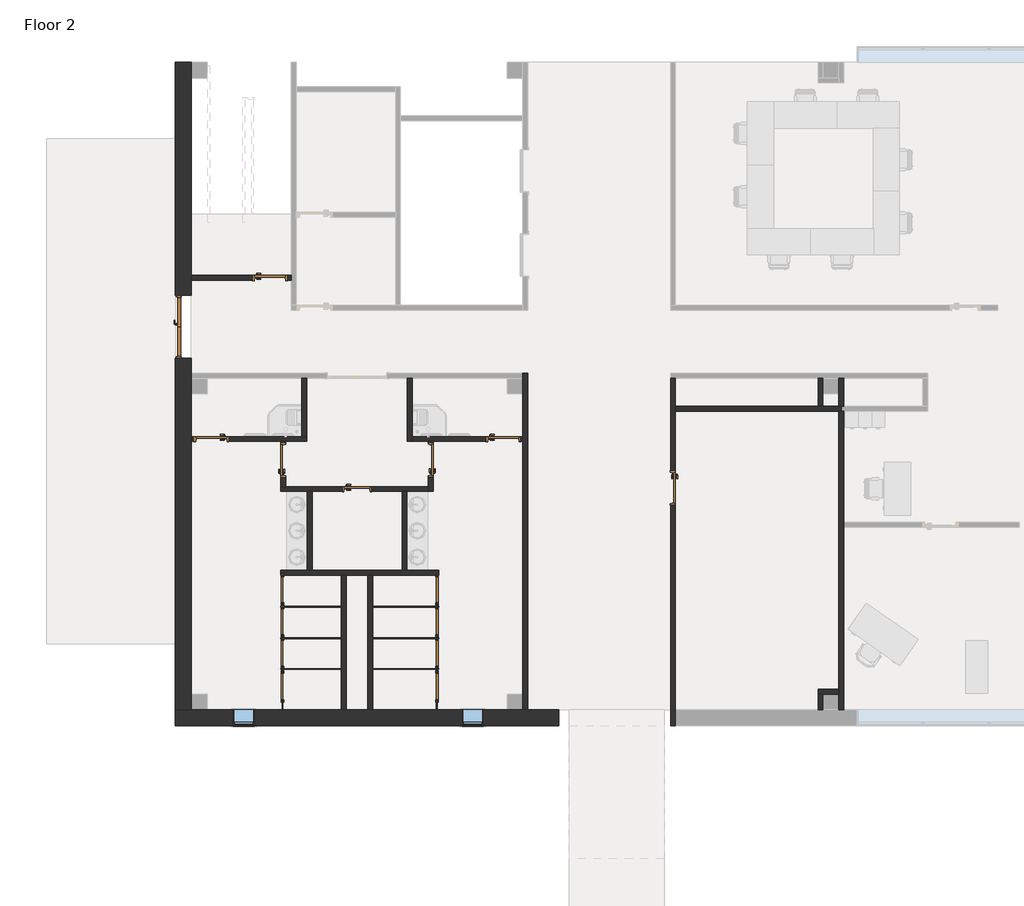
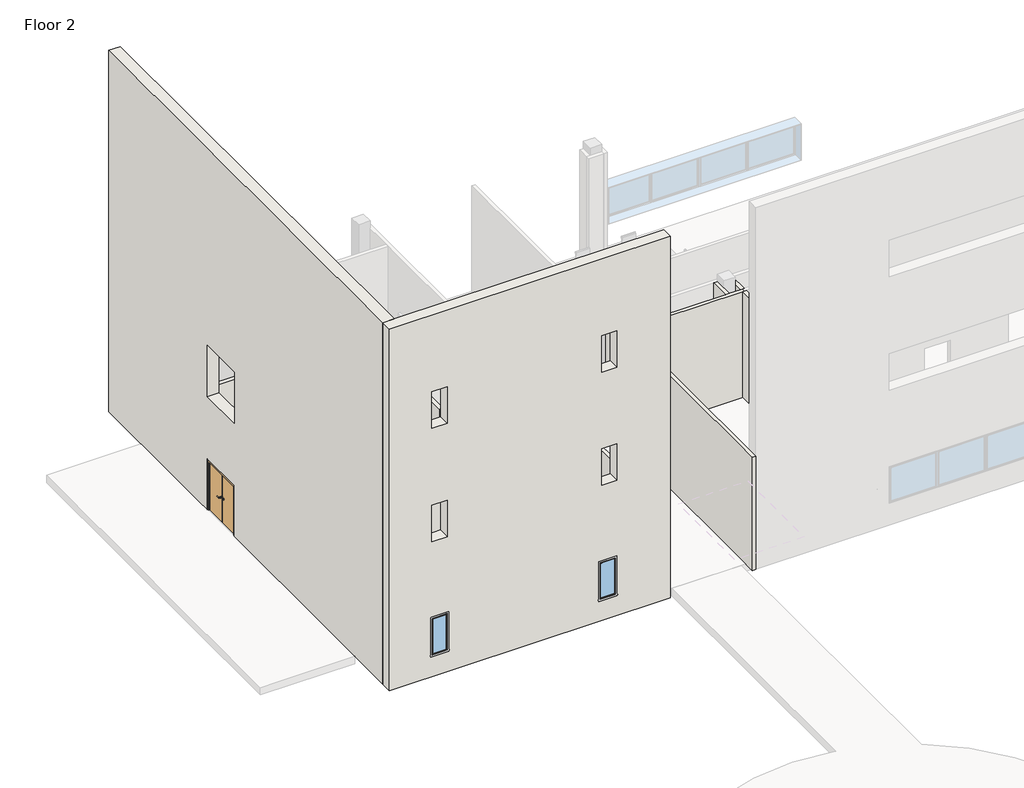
# One storey, part 1 of 7: 37 walls, 16 doors, 2 windows.
"""IFC4 building model written with IfcOpenShell, lengths in millimetres."""

from ifc_helpers import new_model, si_unit, frame, origin, place, context, project, spatial, polyline, outline, extrude, faceted_brep, transform, mapped, element, save
from components import door_efda3cbc, door_b22482a1, door_36f17018, door_a46f4f49, door_b03708da, door_cef5613e, window_69ce9bab

model = new_model("IFC4")

# Units and contexts
model_context = context("Model", 3, world=origin())
ifc_project = project(units=[si_unit("LENGTHUNIT", "METRE", prefix="MILLI")], contexts=[model_context])

# Site, building, storey
site = spatial("IfcSite", under=ifc_project)
building = spatial("IfcBuilding", under=site)
storey = spatial("IfcBuildingStorey", under=building, Name="Floor 2", Elevation=5486.4)

# Doors
placement = place(None, origin())
door_shape = door_efda3cbc(model_context)
element("IfcDoor", 1, ObjectType="Door-Passage-Double-Flush : 68\" x 80\"", at=placement, inside=storey, context=model_context, shape_type="MappedRepresentation", body=[
    mapped(door_shape, transform((-3186.4602165, 49707.011889, 5486.4), x_axis=(0.0, 1.0, 0.0), y_axis=(-1.0, 0.0, 0.0), z_axis=(0.0, 0.0, 1.0))),
])
door_2_shape = door_b22482a1(model_context)
element("IfcDoor", 2, ObjectType="Door-Passage-Single-Flush : 30\" x 84\"", at=placement, inside=storey, context=model_context, shape_type="MappedRepresentation", body=[
    mapped(door_2_shape, transform((1836.7692024, 45008.011889, 5486.4), x_axis=(1.0, 0.0, 0.0), y_axis=(0.0, 1.0, 0.0), z_axis=(0.0, 0.0, 1.0))),
])
door_3_shape = door_36f17018(model_context)
element("IfcDoor", 3, ObjectType="Door-Passage-Single-Flush : 36\" x 84\"", at=placement, inside=storey, context=model_context, shape_type="MappedRepresentation", body=[
    mapped(door_3_shape, transform((3964.0192024, 45858.911889, 5486.4), x_axis=(0.0, 1.0, 0.0), y_axis=(-1.0, 0.0, 0.0), z_axis=(0.0, 0.0, 1.0))),
])
element("IfcDoor", 4, ObjectType="Door-Passage-Single-Flush : 36\" x 84\"", at=placement, inside=storey, context=model_context, shape_type="MappedRepresentation", body=[
    mapped(door_3_shape, transform((-2380.0102165, 46455.811889, 5486.4), x_axis=(-1.0, 0.0, 0.0), y_axis=(0.0, -1.0, 0.0), z_axis=(0.0, 0.0, 1.0))),
])
door_4_shape = door_a46f4f49(model_context)
element("IfcDoor", 5, ObjectType="Door-Passage-Single-Flush : 36\" x 84\"", at=placement, inside=storey, context=model_context, shape_type="MappedRepresentation", body=[
    mapped(door_4_shape, transform((-684.1807976, 51116.711889, 5486.4), x_axis=(1.0, 0.0, 0.0), y_axis=(0.0, 1.0, 0.0), z_axis=(0.0, 0.0, 1.0))),
])
element("IfcDoor", 6, ObjectType="Door-Passage-Single-Flush : 36\" x 84\"", at=placement, inside=storey, context=model_context, shape_type="MappedRepresentation", body=[
    mapped(door_4_shape, transform((-290.4807976, 45852.561889, 5486.4), x_axis=(0.0, 1.0, 0.0), y_axis=(-1.0, 0.0, 0.0), z_axis=(0.0, 0.0, 1.0))),
])
element("IfcDoor", 7, ObjectType="Door-Passage-Single-Flush : 36\" x 84\"", at=placement, inside=storey, context=model_context, shape_type="MappedRepresentation", body=[
    mapped(door_4_shape, transform((6072.2192024, 46455.811889, 5486.4), x_axis=(1.0, 0.0, 0.0), y_axis=(0.0, 1.0, 0.0), z_axis=(0.0, 0.0, 1.0))),
])
element("IfcDoor", 8, ObjectType="Door-Passage-Single-Flush : 36\" x 84\"", at=placement, inside=storey, context=model_context, shape_type="MappedRepresentation", body=[
    mapped(door_4_shape, transform((10974.4192024, 45046.111889, 5486.4), x_axis=(0.0, -1.0, 0.0), y_axis=(1.0, 0.0, 0.0), z_axis=(0.0, 0.0, 1.0))),
])
door_5_shape = door_b03708da(model_context)
element("IfcDoor", 9, ObjectType="Single-Flush : 30\" x 80\"", at=placement, inside=storey, context=model_context, shape_type="MappedRepresentation", body=[
    mapped(door_5_shape, transform((-322.2307976, 42096.536889, 5486.4), x_axis=(0.0, -1.0, 0.0), y_axis=(1.0, 0.0, 0.0), z_axis=(0.0, 0.0, 1.0))),
])
element("IfcDoor", 10, ObjectType="Single-Flush : 30\" x 80\"", at=placement, inside=storey, context=model_context, shape_type="MappedRepresentation", body=[
    mapped(door_5_shape, transform((-322.2307976, 41169.436889, 5486.4), x_axis=(0.0, -1.0, 0.0), y_axis=(1.0, 0.0, 0.0), z_axis=(0.0, 0.0, 1.0))),
])
element("IfcDoor", 11, ObjectType="Single-Flush : 30\" x 80\"", at=placement, inside=storey, context=model_context, shape_type="MappedRepresentation", body=[
    mapped(door_5_shape, transform((-322.2307976, 40255.036889, 5486.4), x_axis=(0.0, -1.0, 0.0), y_axis=(1.0, 0.0, 0.0), z_axis=(0.0, 0.0, 1.0))),
])
element("IfcDoor", 12, ObjectType="Single-Flush : 30\" x 80\"", at=placement, inside=storey, context=model_context, shape_type="MappedRepresentation", body=[
    mapped(door_5_shape, transform((-322.2307976, 39296.186889, 5486.4), x_axis=(0.0, -1.0, 0.0), y_axis=(1.0, 0.0, 0.0), z_axis=(0.0, 0.0, 1.0))),
])
door_6_shape = door_cef5613e(model_context)
element("IfcDoor", 13, ObjectType="Single-Flush : 30\" x 80\"", at=placement, inside=storey, context=model_context, shape_type="MappedRepresentation", body=[
    mapped(door_6_shape, transform((4148.1692024, 42096.536889, 5486.4), x_axis=(0.0, -1.0, 0.0), y_axis=(1.0, 0.0, 0.0), z_axis=(0.0, 0.0, 1.0))),
])
element("IfcDoor", 14, ObjectType="Single-Flush : 30\" x 80\"", at=placement, inside=storey, context=model_context, shape_type="MappedRepresentation", body=[
    mapped(door_6_shape, transform((4148.1692024, 41169.436889, 5486.4), x_axis=(0.0, -1.0, 0.0), y_axis=(1.0, 0.0, 0.0), z_axis=(0.0, 0.0, 1.0))),
])
element("IfcDoor", 15, ObjectType="Single-Flush : 30\" x 80\"", at=placement, inside=storey, context=model_context, shape_type="MappedRepresentation", body=[
    mapped(door_6_shape, transform((4148.1692024, 40255.036889, 5486.4), x_axis=(0.0, -1.0, 0.0), y_axis=(1.0, 0.0, 0.0), z_axis=(0.0, 0.0, 1.0))),
])
element("IfcDoor", 16, ObjectType="Single-Flush : 30\" x 80\"", at=placement, inside=storey, context=model_context, shape_type="MappedRepresentation", body=[
    mapped(door_6_shape, transform((4148.1692024, 39296.186889, 5486.4), x_axis=(0.0, -1.0, 0.0), y_axis=(1.0, 0.0, 0.0), z_axis=(0.0, 0.0, 1.0))),
])

# Walls
element("IfcWall", 17, ObjectType="Interior - 5 1/2\" Partition (1-hr)", at=placement, inside=storey, context=model_context, shape_type="Brep", body=[
    faceted_brep([(6777.0692024, 38618.324389, 5486.4), (6777.0692024, 48360.811889, 5486.4), (6777.0692024, 48360.811889, 10210.8), (6777.0692024, 38618.324389, 10210.8), (6637.3692024, 38618.324389, 5486.4), (6637.3692024, 38618.324389, 10210.8), (6637.3692024, 48360.811889, 10210.8), (6637.3692024, 48360.811889, 9906.0), (6637.3692024, 48360.811889, 5486.4), (6637.3692024, 48221.111889, 5486.4), (6637.3692024, 46532.011889, 5486.4), (6637.3692024, 46392.311889, 5486.4)], [[[0, 1, 2, 3]], [[4, 5, 6, 7, 8, 9, 10, 11]], [[1, 0, 4, 11, 10, 9, 8]], [[3, 2, 6, 5]], [[2, 1, 8, 7, 6]], [[0, 3, 5, 4]]]),
])
element("IfcWall", 18, ObjectType="Interior - 5 1/2\" Partition (1-hr)", at=placement, inside=storey, context=model_context, shape_type="SweptSolid", body=[
    extrude(outline(polyline([(7721.6, -176.1807976), (5486.4, -176.1807976), (5486.4, -61.8807976), (10210.8, -61.8807976), (10210.8, -2965.7977165), (5486.4, -2965.7977165), (5486.4, -1192.1807976), (7721.6, -1192.1807976), (7721.6, -176.1807976)])), frame((0.0, 51053.211889, 0.0), z_axis=(0.0, 1.0, 0.0), x_axis=(0.0, 0.0, 1.0)), (0.0, 0.0, 1.0), 139.7),
])
element("IfcWall", 19, ObjectType="Interior - 5 1/2\" Partition (1-hr)", at=placement, inside=storey, context=model_context, shape_type="Brep", body=[
    faceted_brep([(3290.9192024, 48221.111889, 5486.4), (3290.9192024, 46392.311889, 5486.4), (3290.9192024, 46392.311889, 9906.0), (3290.9192024, 48221.111889, 9906.0), (3430.6192024, 48221.111889, 5486.4), (3430.6192024, 48221.111889, 9906.0), (3430.6192024, 46532.011889, 9906.0), (3430.6192024, 46392.311889, 9906.0), (3430.6192024, 46392.311889, 5486.4), (3430.6192024, 46532.011889, 5486.4)], [[[0, 1, 2, 3]], [[4, 5, 6, 7, 8, 9]], [[1, 0, 4, 9, 8]], [[2, 1, 8, 7]], [[0, 3, 5, 4]], [[3, 2, 7, 6, 5]]]),
])
element("IfcWall", 20, ObjectType="Interior - 5 1/2\" Partition (1-hr)", at=placement, inside=storey, context=model_context, shape_type="Brep", body=[
    faceted_brep([(6580.2192024, 46392.311889, 7721.6), (6580.2192024, 46392.311889, 5486.4), (6637.3692024, 46392.311889, 5486.4), (6637.3692024, 46392.311889, 9906.0), (4040.2192024, 46392.311889, 9906.0), (3900.5192024, 46392.311889, 9906.0), (3430.6192024, 46392.311889, 9906.0), (3430.6192024, 46392.311889, 5486.4), (3900.5192024, 46392.311889, 5486.4), (4040.2192024, 46392.311889, 5486.4), (5564.2192024, 46392.311889, 5486.4), (5564.2192024, 46392.311889, 7721.6), (6637.3692024, 46532.011889, 5486.4), (6580.2192024, 46532.011889, 5486.4), (6580.2192024, 46532.011889, 7721.6), (5564.2192024, 46532.011889, 7721.6), (5564.2192024, 46532.011889, 5486.4), (3430.6192024, 46532.011889, 5486.4), (3430.6192024, 46532.011889, 9906.0), (6637.3692024, 46532.011889, 9906.0)], [[[0, 1, 2, 3, 4, 5, 6, 7, 8, 9, 10, 11]], [[12, 13, 14, 15, 16, 17, 18, 19]], [[2, 1, 13, 12]], [[10, 9, 8, 7, 17, 16]], [[7, 6, 18, 17]], [[3, 2, 12, 19]], [[6, 5, 4, 3, 19, 18]], [[14, 13, 1, 0]], [[15, 14, 0, 11]], [[16, 15, 11, 10]]]),
])
element("IfcWall", 21, ObjectType="Interior - 5 1/2\" Partition (1-hr)", at=placement, inside=storey, context=model_context, shape_type="Brep", body=[
    faceted_brep([(-2965.7977165, 46392.311889, 10210.8), (382.6192024, 46392.311889, 10210.8), (382.6192024, 46532.011889, 10210.8), (-2965.7977165, 46532.011889, 10210.8), (-2965.7977165, 46392.311889, 5486.4), (-2888.0102165, 46392.311889, 5486.4), (-2888.0102165, 46392.311889, 7721.6), (-1872.0102165, 46392.311889, 7721.6), (-1872.0102165, 46392.311889, 5486.4), (-366.6807976, 46392.311889, 5486.4), (-226.9807976, 46392.311889, 5486.4), (382.6192024, 46392.311889, 5486.4), (-2888.0102165, 46532.011889, 7721.6), (-2888.0102165, 46532.011889, 5486.4), (-2965.7977165, 46532.011889, 5486.4), (382.6192024, 46532.011889, 9906.0), (382.6192024, 46532.011889, 5486.4), (242.9192024, 46532.011889, 5486.4), (-1872.0102165, 46532.011889, 5486.4), (-1872.0102165, 46532.011889, 7721.6)], [[[0, 1, 2, 3]], [[4, 5, 6, 7, 8, 9, 10, 11, 1, 0]], [[12, 13, 14, 3, 2, 15, 16, 17, 18, 19]], [[14, 13, 5, 4]], [[18, 17, 16, 11, 10, 9, 8]], [[1, 11, 16, 15, 2]], [[4, 0, 3, 14]], [[6, 5, 13, 12]], [[7, 6, 12, 19]], [[8, 7, 19, 18]]]),
])
element("IfcWall", 22, ObjectType="Interior - 5 1/2\" Partition (1-hr)", at=placement, inside=storey, context=model_context, shape_type="SweptSolid", body=[
    extrude(outline(polyline([(382.6192024, 48221.111889), (382.6192024, 46532.011889), (242.9192024, 46532.011889), (242.9192024, 48221.111889), (382.6192024, 48221.111889)])), frame((0.0, 0.0, 5486.4), z_axis=(0.0, 0.0, 1.0), x_axis=(1.0, 0.0, 0.0)), (0.0, 0.0, 1.0), 4419.6),
])
element("IfcWall", 23, ObjectType="Interior - 5 1/2\" Partition (1-hr)", at=placement, inside=storey, context=model_context, shape_type="Brep", body=[
    faceted_brep([(3900.5192024, 46392.311889, 5486.4), (3900.5192024, 46366.911889, 5486.4), (3900.5192024, 46366.911889, 7721.6), (3900.5192024, 45350.911889, 7721.6), (3900.5192024, 45350.911889, 5486.4), (3900.5192024, 45084.211889, 5486.4), (3900.5192024, 44944.511889, 5486.4), (3900.5192024, 44944.511889, 9906.0), (3900.5192024, 45084.211889, 9906.0), (3900.5192024, 46392.311889, 9906.0), (4040.2192024, 46366.911889, 7721.6), (4040.2192024, 46366.911889, 5486.4), (4040.2192024, 46392.311889, 5486.4), (4040.2192024, 46392.311889, 9906.0), (4040.2192024, 44944.511889, 9906.0), (4040.2192024, 44944.511889, 5486.4), (4040.2192024, 45350.911889, 5486.4), (4040.2192024, 45350.911889, 7721.6)], [[[0, 1, 2, 3, 4, 5, 6, 7, 8, 9]], [[10, 11, 12, 13, 14, 15, 16, 17]], [[12, 11, 1, 0]], [[16, 15, 6, 5, 4]], [[0, 9, 13, 12]], [[7, 6, 15, 14]], [[9, 8, 7, 14, 13]], [[2, 1, 11, 10]], [[3, 2, 10, 17]], [[4, 3, 17, 16]]]),
])
element("IfcWall", 24, ObjectType="Interior - 5 1/2\" Partition (1-hr)", at=placement, inside=storey, context=model_context, shape_type="Brep", body=[
    faceted_brep([(3900.5192024, 45084.211889, 5486.4), (2268.5692024, 45084.211889, 5486.4), (2268.5692024, 45084.211889, 7721.6), (1404.9692024, 45084.211889, 7721.6), (1404.9692024, 45084.211889, 5486.4), (-226.9807976, 45084.211889, 5486.4), (-366.6807976, 45084.211889, 5486.4), (-366.6807976, 45084.211889, 9906.0), (-226.9807976, 45084.211889, 9906.0), (3900.5192024, 45084.211889, 9906.0), (2268.5692024, 44944.511889, 7721.6), (2268.5692024, 44944.511889, 5486.4), (3138.5192024, 44944.511889, 5486.4), (3278.2192024, 44944.511889, 5486.4), (3900.5192024, 44944.511889, 5486.4), (3900.5192024, 44944.511889, 9906.0), (3278.2192024, 44944.511889, 9906.0), (3138.5192024, 44944.511889, 9906.0), (535.0192024, 44944.511889, 9906.0), (395.3192024, 44944.511889, 9906.0), (-366.6807976, 44944.511889, 9906.0), (-366.6807976, 44944.511889, 5486.4), (395.3192024, 44944.511889, 5486.4), (535.0192024, 44944.511889, 5486.4), (1404.9692024, 44944.511889, 5486.4), (1404.9692024, 44944.511889, 7721.6)], [[[0, 1, 2, 3, 4, 5, 6, 7, 8, 9]], [[10, 11, 12, 13, 14, 15, 16, 17, 18, 19, 20, 21, 22, 23, 24, 25]], [[14, 13, 12, 11, 1, 0]], [[24, 23, 22, 21, 6, 5, 4]], [[0, 9, 15, 14]], [[7, 6, 21, 20]], [[9, 8, 7, 20, 19, 18, 17, 16, 15]], [[2, 1, 11, 10]], [[3, 2, 10, 25]], [[4, 3, 25, 24]]]),
])
element("IfcWall", 25, ObjectType="Interior - 5 1/2\" Partition (1-hr)", at=placement, inside=storey, context=model_context, shape_type="Brep", body=[
    faceted_brep([(2147.9192024, 42518.811889, 5486.4), (2147.9192024, 38618.324389, 5486.4), (2147.9192024, 38618.324389, 10210.8), (2147.9192024, 42518.811889, 10210.8), (2287.6192024, 42518.811889, 5486.4), (2287.6192024, 42518.811889, 10210.8), (2287.6192024, 38618.324389, 10210.8), (2287.6192024, 38618.324389, 5486.4), (2287.6192024, 39788.311889, 5486.4), (2287.6192024, 39813.711889, 5486.4), (2287.6192024, 40677.311889, 5486.4), (2287.6192024, 40702.711889, 5486.4), (2287.6192024, 41591.711889, 5486.4), (2287.6192024, 41617.111889, 5486.4)], [[[0, 1, 2, 3]], [[4, 5, 6, 7, 8, 9, 10, 11, 12, 13]], [[1, 0, 4, 13, 12, 11, 10, 9, 8, 7]], [[3, 2, 6, 5]], [[0, 3, 5, 4]], [[2, 1, 7, 6]]]),
])
element("IfcWall", 26, ObjectType="Interior - 5 1/2\" Partition (1-hr)", at=placement, inside=storey, context=model_context, shape_type="Brep", body=[
    faceted_brep([(-373.0307976, 42518.811889, 5486.4), (-334.9307976, 42518.811889, 5486.4), (-309.5307976, 42518.811889, 5486.4), (1385.9192024, 42518.811889, 5486.4), (1525.6192024, 42518.811889, 5486.4), (2147.9192024, 42518.811889, 5486.4), (2287.6192024, 42518.811889, 5486.4), (4135.4692024, 42518.811889, 5486.4), (4160.8692024, 42518.811889, 5486.4), (4198.9692024, 42518.811889, 5486.4), (4198.9692024, 42518.811889, 9906.0), (-373.0307976, 42518.811889, 9906.0), (-373.0307976, 42658.511889, 5486.4), (-373.0307976, 42658.511889, 9906.0), (395.3192024, 42658.511889, 9906.0), (535.0192024, 42658.511889, 9906.0), (3138.5192024, 42658.511889, 9906.0), (3278.2192024, 42658.511889, 9906.0), (4198.9692024, 42658.511889, 9906.0), (4198.9692024, 42658.511889, 5486.4), (3278.2192024, 42658.511889, 5486.4), (3138.5192024, 42658.511889, 5486.4), (535.0192024, 42658.511889, 5486.4), (395.3192024, 42658.511889, 5486.4)], [[[0, 1, 2, 3, 4, 5, 6, 7, 8, 9, 10, 11]], [[12, 13, 14, 15, 16, 17, 18, 19, 20, 21, 22, 23]], [[9, 8, 7, 6, 5, 4, 3, 2, 1, 0, 12, 23, 22, 21, 20, 19]], [[10, 9, 19, 18]], [[0, 11, 13, 12]], [[11, 10, 18, 17, 16, 15, 14, 13]]]),
])
element("IfcWall", 27, ObjectType="Interior - 5 1/2\" Partition (1-hr)", at=placement, inside=storey, context=model_context, shape_type="SweptSolid", body=[
    extrude(outline(polyline([(3278.2192024, 44944.511889), (3278.2192024, 42658.511889), (3138.5192024, 42658.511889), (3138.5192024, 44944.511889), (3278.2192024, 44944.511889)])), frame((0.0, 0.0, 5486.4), z_axis=(0.0, 0.0, 1.0), x_axis=(1.0, 0.0, 0.0)), (0.0, 0.0, 1.0), 4419.6),
])
element("IfcWall", 28, ObjectType="Interior - 5 1/2\" Partition (1-hr)", at=placement, inside=storey, context=model_context, shape_type="Brep", body=[
    faceted_brep([(1385.9192024, 42518.811889, 5486.4), (1385.9192024, 41617.111889, 5486.4), (1385.9192024, 41591.711889, 5486.4), (1385.9192024, 40702.711889, 5486.4), (1385.9192024, 40677.311889, 5486.4), (1385.9192024, 39813.711889, 5486.4), (1385.9192024, 39788.311889, 5486.4), (1385.9192024, 38618.324389, 5486.4), (1385.9192024, 38618.324389, 10210.8), (1385.9192024, 42518.811889, 10210.8), (1525.6192024, 42518.811889, 5486.4), (1525.6192024, 42518.811889, 10210.8), (1525.6192024, 38618.324389, 10210.8), (1525.6192024, 38618.324389, 5486.4)], [[[0, 1, 2, 3, 4, 5, 6, 7, 8, 9]], [[10, 11, 12, 13]], [[7, 6, 5, 4, 3, 2, 1, 0, 10, 13]], [[9, 8, 12, 11]], [[0, 9, 11, 10]], [[8, 7, 13, 12]]]),
])
element("IfcWall", 29, ObjectType="Interior - 5 1/2\" Partition (1-hr)", at=placement, inside=storey, context=model_context, shape_type="SweptSolid", body=[
    extrude(outline(polyline([(46392.311889, 5486.4), (46360.561889, 5486.4), (46360.561889, 7721.6), (45344.561889, 7721.6), (45344.561889, 5486.4), (45084.211889, 5486.4), (45084.211889, 9906.0), (46392.311889, 9906.0), (46392.311889, 5486.4)])), frame((-366.6807976, 0.0, 0.0), z_axis=(1.0, 0.0, 0.0), x_axis=(0.0, 1.0, 0.0)), (0.0, 0.0, 1.0), 139.7),
])
element("IfcWall", 30, ObjectType="Interior - 5 1/2\" Partition (1-hr)", at=placement, inside=storey, context=model_context, shape_type="SweptSolid", body=[
    extrude(outline(polyline([(395.3192024, 42658.511889), (395.3192024, 44944.511889), (535.0192024, 44944.511889), (535.0192024, 42658.511889), (395.3192024, 42658.511889)])), frame((0.0, 0.0, 5486.4), z_axis=(0.0, 0.0, 1.0), x_axis=(1.0, 0.0, 0.0)), (0.0, 0.0, 1.0), 4419.6),
])
element("IfcWall", 31, ObjectType="Interior - 5 1/2\" Partition (1-hr)", at=placement, inside=storey, context=model_context, shape_type="Brep", body=[
    faceted_brep([(10910.9192024, 48221.111889, 10210.8), (10910.9192024, 38164.299389, 10210.8), (11050.6192024, 38164.299389, 10210.8), (11050.6192024, 48221.111889, 10210.8), (11050.6192024, 38164.299389, 5486.4), (11050.6192024, 38618.324389, 5486.4), (11050.6192024, 44538.111889, 5486.4), (11050.6192024, 44538.111889, 7721.6), (11050.6192024, 45554.111889, 7721.6), (11050.6192024, 45554.111889, 5486.4), (11050.6192024, 47262.261889, 5486.4), (11050.6192024, 47401.961889, 5486.4), (11050.6192024, 48221.111889, 5486.4), (10910.9192024, 48221.111889, 9906.0), (10910.9192024, 48221.111889, 5486.4), (10910.9192024, 45554.111889, 5486.4), (10910.9192024, 45554.111889, 7721.6), (10910.9192024, 44538.111889, 7721.6), (10910.9192024, 44538.111889, 5486.4), (10910.9192024, 38164.299389, 5486.4)], [[[0, 1, 2, 3]], [[3, 2, 4, 5, 6, 7, 8, 9, 10, 11, 12]], [[1, 0, 13, 14, 15, 16, 17, 18, 19]], [[14, 12, 11, 10, 9, 15]], [[4, 19, 18, 6, 5]], [[14, 13, 0, 3, 12]], [[1, 19, 4, 2]], [[17, 7, 6, 18]], [[7, 17, 16, 8]], [[8, 16, 15, 9]]]),
])
element("IfcWall", 32, ObjectType="Interior - 5 1/2\" Partition (1-hr)", at=placement, inside=storey, context=model_context, shape_type="Brep", body=[
    faceted_brep([(15324.1692024, 47401.961889, 5486.4), (15324.1692024, 47763.911889, 5486.4), (15324.1692024, 48221.111889, 5486.4), (15324.1692024, 48221.111889, 9906.0), (15324.1692024, 47401.961889, 9906.0), (15184.4692024, 47401.961889, 5486.4), (15184.4692024, 47401.961889, 9906.0), (15184.4692024, 48221.111889, 9906.0), (15184.4692024, 48221.111889, 5486.4)], [[[0, 1, 2, 3, 4]], [[5, 6, 7, 8]], [[2, 1, 0, 5, 8]], [[0, 4, 6, 5]], [[3, 2, 8, 7]], [[4, 3, 7, 6]]]),
])
element("IfcWall", 33, ObjectType="Interior - 5 1/2\" Partition (1-hr)", at=placement, inside=storey, context=model_context, shape_type="Brep", body=[
    faceted_brep([(15921.0692024, 47401.961889, 5486.4), (15921.0692024, 48221.111889, 5486.4), (15921.0692024, 48221.111889, 9906.0), (15921.0692024, 47401.961889, 9906.0), (15781.3692024, 47401.961889, 5486.4), (15781.3692024, 47401.961889, 9906.0), (15781.3692024, 48221.111889, 9906.0), (15781.3692024, 48221.111889, 5486.4), (15781.3692024, 47763.911889, 5486.4), (15851.2192024, 47401.961889, 5486.4), (15851.2192024, 47401.961889, 9906.0)], [[[0, 1, 2, 3]], [[4, 5, 6, 7, 8]], [[1, 0, 9, 4, 8, 7]], [[0, 3, 10, 5, 4, 9]], [[2, 1, 7, 6]], [[3, 2, 6, 5, 10]]]),
])
element("IfcWall", 34, ObjectType="Interior - 5 1/2\" Partition (1-hr)", at=placement, inside=storey, context=model_context, shape_type="Brep", body=[
    faceted_brep([(15921.0692024, 47262.261889, 5486.4), (15921.0692024, 47262.261889, 9906.0), (15921.0692024, 38618.324389, 9906.0), (15921.0692024, 38618.324389, 5486.4), (15921.0692024, 43909.461889, 5486.4), (15921.0692024, 44049.161889, 5486.4), (15781.3692024, 47262.261889, 5486.4), (15781.3692024, 39216.811889, 5486.4), (15781.3692024, 39077.111889, 5486.4), (15781.3692024, 38619.911889, 5486.4), (15781.3692024, 38618.324389, 5486.4), (15781.3692024, 38618.324389, 9906.0), (15781.3692024, 39077.111889, 9906.0), (15781.3692024, 39216.811889, 9906.0), (15781.3692024, 47262.261889, 9906.0), (15851.2192024, 47262.261889, 5486.4), (15851.2192024, 47262.261889, 9906.0)], [[[0, 1, 2, 3, 4, 5]], [[6, 7, 8, 9, 10, 11, 12, 13, 14]], [[10, 9, 8, 7, 6, 15, 0, 5, 4, 3]], [[14, 13, 12, 11, 2, 1, 16]], [[6, 14, 16, 1, 0, 15]], [[11, 10, 3, 2]]]),
])
element("IfcWall", 35, ObjectType="Interior - 5 1/2\" Partition (1-hr)", at=placement, inside=storey, context=model_context, shape_type="Brep", body=[
    faceted_brep([(15781.3692024, 39216.811889, 5486.4), (15184.4692024, 39216.811889, 5486.4), (15184.4692024, 39216.811889, 9906.0), (15781.3692024, 39216.811889, 9906.0), (15781.3692024, 39077.111889, 5486.4), (15781.3692024, 39077.111889, 9906.0), (15324.1692024, 39077.111889, 9906.0), (15184.4692024, 39077.111889, 9906.0), (15184.4692024, 39077.111889, 5486.4), (15324.1692024, 39077.111889, 5486.4)], [[[0, 1, 2, 3]], [[4, 5, 6, 7, 8, 9]], [[1, 0, 4, 9, 8]], [[2, 1, 8, 7]], [[0, 3, 5, 4]], [[3, 2, 7, 6, 5]]]),
])
element("IfcWall", 36, ObjectType="Interior - 5 1/2\" Partition (1-hr)", at=placement, inside=storey, context=model_context, shape_type="Brep", body=[
    faceted_brep([(15184.4692024, 39077.111889, 5486.4), (15184.4692024, 38618.324389, 5486.4), (15184.4692024, 38618.324389, 9906.0), (15184.4692024, 39077.111889, 9906.0), (15324.1692024, 39077.111889, 5486.4), (15324.1692024, 39077.111889, 9906.0), (15324.1692024, 38618.324389, 9906.0), (15324.1692024, 38618.324389, 5486.4), (15324.1692024, 38619.911889, 5486.4)], [[[0, 1, 2, 3]], [[4, 5, 6, 7, 8]], [[1, 0, 4, 8, 7]], [[0, 3, 5, 4]], [[2, 1, 7, 6]], [[3, 2, 6, 5]]]),
])
element("IfcWall", 37, ObjectType="Interior - 5 1/2\" Partition (1-hr)", at=placement, inside=storey, context=model_context, shape_type="Brep", body=[
    faceted_brep([(15851.2192024, 47401.961889, 5486.4), (15781.3692024, 47401.961889, 5486.4), (15324.1692024, 47401.961889, 5486.4), (15184.4692024, 47401.961889, 5486.4), (11050.6192024, 47401.961889, 5486.4), (11050.6192024, 47401.961889, 9906.0), (15184.4692024, 47401.961889, 9906.0), (15324.1692024, 47401.961889, 9906.0), (15781.3692024, 47401.961889, 9906.0), (15851.2192024, 47401.961889, 9906.0), (15851.2192024, 47262.261889, 5486.4), (15851.2192024, 47262.261889, 9906.0), (15781.3692024, 47262.261889, 9906.0), (11050.6192024, 47262.261889, 9906.0), (11050.6192024, 47262.261889, 5486.4), (15781.3692024, 47262.261889, 5486.4)], [[[0, 1, 2, 3, 4, 5, 6, 7, 8, 9]], [[10, 11, 12, 13, 14, 15]], [[4, 3, 2, 1, 0, 10, 15, 14]], [[0, 9, 11, 10]], [[5, 4, 14, 13]], [[9, 8, 7, 6, 5, 13, 12, 11]]]),
])
element("IfcWall", 38, ObjectType="Stone on CMU", at=placement, inside=storey, context=model_context, shape_type="Brep", body=[
    faceted_brep([(7675.2526119, 38618.324389, 5486.4), (6777.0692024, 38618.324389, 5486.4), (6637.3692024, 38618.324389, 5486.4), (4160.8692024, 38618.324389, 5486.4), (4135.4692024, 38618.324389, 5486.4), (2287.6192024, 38618.324389, 5486.4), (2147.9192024, 38618.324389, 5486.4), (1525.6192024, 38618.324389, 5486.4), (1385.9192024, 38618.324389, 5486.4), (-309.5307976, 38618.324389, 5486.4), (-334.9307976, 38618.324389, 5486.4), (-2965.7977165, 38618.324389, 5486.4), (-3419.8227165, 38618.324389, 5486.4), (-3419.8227165, 38618.324389, 20574.0), (-2965.7977165, 38618.324389, 20574.0), (7675.2526119, 38618.324389, 20574.0), (7675.2526119, 38618.324389, 19659.6), (-1750.9807976, 38618.324389, 17373.6), (-1750.9807976, 38618.324389, 15849.6), (-1141.3807976, 38618.324389, 15849.6), (-1141.3807976, 38618.324389, 17373.6), (4954.6192024, 38618.324389, 17373.6), (4954.6192024, 38618.324389, 15849.6), (5564.2192024, 38618.324389, 15849.6), (5564.2192024, 38618.324389, 17373.6), (-1750.9807976, 38618.324389, 12649.2), (-1750.9807976, 38618.324389, 11125.2), (-1141.3807976, 38618.324389, 11125.2), (-1141.3807976, 38618.324389, 12649.2), (4954.6192024, 38618.324389, 12649.2), (4954.6192024, 38618.324389, 11125.2), (5564.2192024, 38618.324389, 11125.2), (5564.2192024, 38618.324389, 12649.2), (-1750.9807976, 38618.324389, 7924.8), (-1750.9807976, 38618.324389, 6400.8), (-1141.3807976, 38618.324389, 6400.8), (-1141.3807976, 38618.324389, 7924.8), (4884.7692024, 38618.324389, 7924.8), (4884.7692024, 38618.324389, 6400.8), (5494.3692024, 38618.324389, 6400.8), (5494.3692024, 38618.324389, 7924.8), (7675.2526119, 38164.299389, 5486.4), (7675.2526119, 38164.299389, 20574.0), (-3419.8227165, 38164.299389, 20574.0), (-3419.8227165, 38164.299389, 5486.4), (-1750.9807976, 38164.299389, 17373.6), (-1141.3807976, 38164.299389, 17373.6), (-1141.3807976, 38164.299389, 15849.6), (-1750.9807976, 38164.299389, 15849.6), (4954.6192024, 38164.299389, 17373.6), (5564.2192024, 38164.299389, 17373.6), (5564.2192024, 38164.299389, 15849.6), (4954.6192024, 38164.299389, 15849.6), (-1750.9807976, 38164.299389, 12649.2), (-1141.3807976, 38164.299389, 12649.2), (-1141.3807976, 38164.299389, 11125.2), (-1750.9807976, 38164.299389, 11125.2), (4954.6192024, 38164.299389, 12649.2), (5564.2192024, 38164.299389, 12649.2), (5564.2192024, 38164.299389, 11125.2), (4954.6192024, 38164.299389, 11125.2), (-1750.9807976, 38164.299389, 7924.8), (-1141.3807976, 38164.299389, 7924.8), (-1141.3807976, 38164.299389, 6400.8), (-1750.9807976, 38164.299389, 6400.8), (4884.7692024, 38164.299389, 7924.8), (5494.3692024, 38164.299389, 7924.8), (5494.3692024, 38164.299389, 6400.8), (4884.7692024, 38164.299389, 6400.8)], [[[0, 1, 2, 3, 4, 5, 6, 7, 8, 9, 10, 11, 12, 13, 14, 15, 16], [17, 18, 19, 20], [21, 22, 23, 24], [25, 26, 27, 28], [29, 30, 31, 32], [33, 34, 35, 36], [37, 38, 39, 40]], [[41, 42, 43, 44], [45, 46, 47, 48], [49, 50, 51, 52], [53, 54, 55, 56], [57, 58, 59, 60], [61, 62, 63, 64], [65, 66, 67, 68]], [[12, 11, 10, 9, 8, 7, 6, 5, 4, 3, 2, 1, 0, 41, 44]], [[15, 14, 13, 43, 42]], [[13, 12, 44, 43]], [[0, 16, 15, 42, 41]], [[18, 17, 45, 48]], [[19, 18, 48, 47]], [[20, 19, 47, 46]], [[17, 20, 46, 45]], [[22, 21, 49, 52]], [[23, 22, 52, 51]], [[24, 23, 51, 50]], [[21, 24, 50, 49]], [[26, 25, 53, 56]], [[27, 26, 56, 55]], [[28, 27, 55, 54]], [[25, 28, 54, 53]], [[30, 29, 57, 60]], [[31, 30, 60, 59]], [[32, 31, 59, 58]], [[29, 32, 58, 57]], [[34, 33, 61, 64]], [[35, 34, 64, 63]], [[36, 35, 63, 62]], [[33, 36, 62, 61]], [[38, 37, 65, 68]], [[39, 38, 68, 67]], [[40, 39, 67, 66]], [[37, 40, 66, 65]]]),
])
element("IfcWall", 39, ObjectType="Stone on CMU", at=placement, inside=storey, context=model_context, shape_type="Brep", body=[
    faceted_brep([(-2965.7977165, 57366.699389, 20574.0), (-2965.7977165, 38618.324389, 20574.0), (-2965.7977165, 38618.324389, 5486.4), (-2965.7977165, 46392.311889, 5486.4), (-2965.7977165, 46532.011889, 5486.4), (-2965.7977165, 48221.111889, 5486.4), (-2965.7977165, 48360.811889, 5486.4), (-2965.7977165, 48792.611889, 5486.4), (-2965.7977165, 48792.611889, 7620.0), (-2965.7977165, 50621.411889, 7620.0), (-2965.7977165, 50621.411889, 5486.4), (-2965.7977165, 51053.211889, 5486.4), (-2965.7977165, 51192.911889, 5486.4), (-2965.7977165, 57366.699389, 5486.4), (-2965.7977165, 50621.411889, 10210.8), (-2965.7977165, 48792.611889, 10210.8), (-2965.7977165, 48792.611889, 12344.4), (-2965.7977165, 50621.411889, 12344.4), (-3419.8227165, 38618.324389, 20574.0), (-3419.8227165, 57366.699389, 20574.0), (-3419.8227165, 57366.699389, 5486.4), (-3419.8227165, 50621.411889, 5486.4), (-3419.8227165, 50621.411889, 7620.0), (-3419.8227165, 48792.611889, 7620.0), (-3419.8227165, 48792.611889, 5486.4), (-3419.8227165, 38618.324389, 5486.4), (-3419.8227165, 50621.411889, 10210.8), (-3419.8227165, 50621.411889, 12344.4), (-3419.8227165, 48792.611889, 12344.4), (-3419.8227165, 48792.611889, 10210.8)], [[[0, 1, 2, 3, 4, 5, 6, 7, 8, 9, 10, 11, 12, 13], [14, 15, 16, 17]], [[18, 19, 20, 21, 22, 23, 24, 25], [26, 27, 28, 29]], [[2, 25, 24, 7, 6, 5, 4, 3]], [[20, 13, 12, 11, 10, 21]], [[1, 0, 19, 18]], [[2, 1, 18, 25]], [[0, 13, 20, 19]], [[9, 22, 21, 10]], [[22, 9, 8, 23]], [[23, 8, 7, 24]], [[27, 26, 14, 17]], [[28, 27, 17, 16]], [[29, 28, 16, 15]], [[26, 29, 15, 14]]]),
])
element("IfcWall", 40, ObjectType="toilet partition - 1\"", at=placement, inside=storey, context=model_context, shape_type="Brep", body=[
    faceted_brep([(2287.6192024, 39788.311889, 5486.4), (4135.4692024, 39788.311889, 5486.4), (4160.8692024, 39788.311889, 5486.4), (4198.9692024, 39788.311889, 5486.4), (4198.9692024, 39788.311889, 7924.8), (4160.8692024, 39788.311889, 7924.8), (4135.4692024, 39788.311889, 7924.8), (2287.6192024, 39788.311889, 7924.8), (2287.6192024, 39813.711889, 5486.4), (2287.6192024, 39813.711889, 7924.8), (4135.4692024, 39813.711889, 7924.8), (4160.8692024, 39813.711889, 7924.8), (4198.9692024, 39813.711889, 7924.8), (4198.9692024, 39813.711889, 5486.4), (4160.8692024, 39813.711889, 5486.4), (4135.4692024, 39813.711889, 5486.4)], [[[0, 1, 2, 3, 4, 5, 6, 7]], [[8, 9, 10, 11, 12, 13, 14, 15]], [[3, 2, 1, 0, 8, 15, 14, 13]], [[4, 3, 13, 12]], [[7, 6, 5, 4, 12, 11, 10, 9]], [[0, 7, 9, 8]]]),
])
element("IfcWall", 41, ObjectType="toilet partition - 1\"", at=placement, inside=storey, context=model_context, shape_type="Brep", body=[
    faceted_brep([(2287.6192024, 40677.311889, 5486.4), (4135.4692024, 40677.311889, 5486.4), (4160.8692024, 40677.311889, 5486.4), (4198.9692024, 40677.311889, 5486.4), (4198.9692024, 40677.311889, 7924.8), (4160.8692024, 40677.311889, 7924.8), (4135.4692024, 40677.311889, 7924.8), (2287.6192024, 40677.311889, 7924.8), (2287.6192024, 40702.711889, 5486.4), (2287.6192024, 40702.711889, 7924.8), (4135.4692024, 40702.711889, 7924.8), (4160.8692024, 40702.711889, 7924.8), (4198.9692024, 40702.711889, 7924.8), (4198.9692024, 40702.711889, 5486.4), (4160.8692024, 40702.711889, 5486.4), (4135.4692024, 40702.711889, 5486.4)], [[[0, 1, 2, 3, 4, 5, 6, 7]], [[8, 9, 10, 11, 12, 13, 14, 15]], [[3, 2, 1, 0, 8, 15, 14, 13]], [[4, 3, 13, 12]], [[7, 6, 5, 4, 12, 11, 10, 9]], [[0, 7, 9, 8]]]),
])
element("IfcWall", 42, ObjectType="toilet partition - 1\"", at=placement, inside=storey, context=model_context, shape_type="Brep", body=[
    faceted_brep([(2287.6192024, 41591.711889, 5486.4), (4135.4692024, 41591.711889, 5486.4), (4160.8692024, 41591.711889, 5486.4), (4198.9692024, 41591.711889, 5486.4), (4198.9692024, 41591.711889, 7924.8), (4160.8692024, 41591.711889, 7924.8), (4135.4692024, 41591.711889, 7924.8), (2287.6192024, 41591.711889, 7924.8), (2287.6192024, 41617.111889, 5486.4), (2287.6192024, 41617.111889, 7924.8), (4135.4692024, 41617.111889, 7924.8), (4160.8692024, 41617.111889, 7924.8), (4198.9692024, 41617.111889, 7924.8), (4198.9692024, 41617.111889, 5486.4), (4160.8692024, 41617.111889, 5486.4), (4135.4692024, 41617.111889, 5486.4)], [[[0, 1, 2, 3, 4, 5, 6, 7]], [[8, 9, 10, 11, 12, 13, 14, 15]], [[3, 2, 1, 0, 8, 15, 14, 13]], [[4, 3, 13, 12]], [[7, 6, 5, 4, 12, 11, 10, 9]], [[0, 7, 9, 8]]]),
])
element("IfcWall", 43, ObjectType="toilet partition - 1\"", at=placement, inside=storey, context=model_context, shape_type="Brep", body=[
    faceted_brep([(1385.9192024, 41617.111889, 5486.4), (-309.5307976, 41617.111889, 5486.4), (-334.9307976, 41617.111889, 5486.4), (-373.0307976, 41617.111889, 5486.4), (-373.0307976, 41617.111889, 7924.8), (-334.9307976, 41617.111889, 7924.8), (-309.5307976, 41617.111889, 7924.8), (1385.9192024, 41617.111889, 7924.8), (1385.9192024, 41591.711889, 5486.4), (1385.9192024, 41591.711889, 7924.8), (-309.5307976, 41591.711889, 7924.8), (-334.9307976, 41591.711889, 7924.8), (-373.0307976, 41591.711889, 7924.8), (-373.0307976, 41591.711889, 5486.4), (-334.9307976, 41591.711889, 5486.4), (-309.5307976, 41591.711889, 5486.4)], [[[0, 1, 2, 3, 4, 5, 6, 7]], [[8, 9, 10, 11, 12, 13, 14, 15]], [[3, 2, 1, 0, 8, 15, 14, 13]], [[4, 3, 13, 12]], [[7, 6, 5, 4, 12, 11, 10, 9]], [[0, 7, 9, 8]]]),
])
element("IfcWall", 44, ObjectType="toilet partition - 1\"", at=placement, inside=storey, context=model_context, shape_type="Brep", body=[
    faceted_brep([(1385.9192024, 40702.711889, 5486.4), (-309.5307976, 40702.711889, 5486.4), (-334.9307976, 40702.711889, 5486.4), (-373.0307976, 40702.711889, 5486.4), (-373.0307976, 40702.711889, 7924.8), (-334.9307976, 40702.711889, 7924.8), (-309.5307976, 40702.711889, 7924.8), (1385.9192024, 40702.711889, 7924.8), (1385.9192024, 40677.311889, 5486.4), (1385.9192024, 40677.311889, 7924.8), (-309.5307976, 40677.311889, 7924.8), (-334.9307976, 40677.311889, 7924.8), (-373.0307976, 40677.311889, 7924.8), (-373.0307976, 40677.311889, 5486.4), (-334.9307976, 40677.311889, 5486.4), (-309.5307976, 40677.311889, 5486.4)], [[[0, 1, 2, 3, 4, 5, 6, 7]], [[8, 9, 10, 11, 12, 13, 14, 15]], [[3, 2, 1, 0, 8, 15, 14, 13]], [[4, 3, 13, 12]], [[7, 6, 5, 4, 12, 11, 10, 9]], [[0, 7, 9, 8]]]),
])
element("IfcWall", 45, ObjectType="toilet partition - 1\"", at=placement, inside=storey, context=model_context, shape_type="Brep", body=[
    faceted_brep([(1385.9192024, 39813.711889, 5486.4), (-309.5307976, 39813.711889, 5486.4), (-334.9307976, 39813.711889, 5486.4), (-373.0307976, 39813.711889, 5486.4), (-373.0307976, 39813.711889, 7924.8), (-334.9307976, 39813.711889, 7924.8), (-309.5307976, 39813.711889, 7924.8), (1385.9192024, 39813.711889, 7924.8), (1385.9192024, 39788.311889, 5486.4), (1385.9192024, 39788.311889, 7924.8), (-309.5307976, 39788.311889, 7924.8), (-334.9307976, 39788.311889, 7924.8), (-373.0307976, 39788.311889, 7924.8), (-373.0307976, 39788.311889, 5486.4), (-334.9307976, 39788.311889, 5486.4), (-309.5307976, 39788.311889, 5486.4)], [[[0, 1, 2, 3, 4, 5, 6, 7]], [[8, 9, 10, 11, 12, 13, 14, 15]], [[3, 2, 1, 0, 8, 15, 14, 13]], [[4, 3, 13, 12]], [[7, 6, 5, 4, 12, 11, 10, 9]], [[0, 7, 9, 8]]]),
])
element("IfcWall", 46, ObjectType="toilet partition - 1\"", at=placement, inside=storey, context=model_context, shape_type="SweptSolid", body=[
    extrude(outline(polyline([(41715.536889, 7518.4), (41715.536889, 5486.4), (41617.111889, 5486.4), (41617.111889, 7924.8), (42518.811889, 7924.8), (42518.811889, 5486.4), (42477.536889, 5486.4), (42477.536889, 7518.4), (41715.536889, 7518.4)])), frame((-334.9307976, 0.0, 0.0), z_axis=(1.0, 0.0, 0.0), x_axis=(0.0, 1.0, 0.0)), (0.0, 0.0, 1.0), 25.4),
])
element("IfcWall", 47, ObjectType="toilet partition - 1\"", at=placement, inside=storey, context=model_context, shape_type="SweptSolid", body=[
    extrude(outline(polyline([(40788.436889, 7518.4), (40788.436889, 5486.4), (40702.711889, 5486.4), (40702.711889, 7924.8), (41591.711889, 7924.8), (41591.711889, 5486.4), (41550.436889, 5486.4), (41550.436889, 7518.4), (40788.436889, 7518.4)])), frame((-334.9307976, 0.0, 0.0), z_axis=(1.0, 0.0, 0.0), x_axis=(0.0, 1.0, 0.0)), (0.0, 0.0, 1.0), 25.4),
])
element("IfcWall", 48, ObjectType="toilet partition - 1\"", at=placement, inside=storey, context=model_context, shape_type="SweptSolid", body=[
    extrude(outline(polyline([(39874.036889, 7518.4), (39874.036889, 5486.4), (39813.711889, 5486.4), (39813.711889, 7924.8), (40677.311889, 7924.8), (40677.311889, 5486.4), (40636.036889, 5486.4), (40636.036889, 7518.4), (39874.036889, 7518.4)])), frame((-334.9307976, 0.0, 0.0), z_axis=(1.0, 0.0, 0.0), x_axis=(0.0, 1.0, 0.0)), (0.0, 0.0, 1.0), 25.4),
])
element("IfcWall", 49, ObjectType="toilet partition - 1\"", at=placement, inside=storey, context=model_context, shape_type="SweptSolid", body=[
    extrude(outline(polyline([(38915.186889, 7518.4), (38915.186889, 5486.4), (38618.324389, 5486.4), (38618.324389, 7924.8), (39788.311889, 7924.8), (39788.311889, 5486.4), (39677.186889, 5486.4), (39677.186889, 7518.4), (38915.186889, 7518.4)])), frame((-334.9307976, 0.0, 0.0), z_axis=(1.0, 0.0, 0.0), x_axis=(0.0, 1.0, 0.0)), (0.0, 0.0, 1.0), 25.4),
])
element("IfcWall", 50, ObjectType="toilet partition - 1\"", at=placement, inside=storey, context=model_context, shape_type="SweptSolid", body=[
    extrude(outline(polyline([(41715.536889, 7518.4), (41715.536889, 5486.4), (41617.111889, 5486.4), (41617.111889, 7924.8), (42518.811889, 7924.8), (42518.811889, 5486.4), (42477.536889, 5486.4), (42477.536889, 7518.4), (41715.536889, 7518.4)])), frame((4135.4692024, 0.0, 0.0), z_axis=(1.0, 0.0, 0.0), x_axis=(0.0, 1.0, 0.0)), (0.0, 0.0, 1.0), 25.4),
])
element("IfcWall", 51, ObjectType="toilet partition - 1\"", at=placement, inside=storey, context=model_context, shape_type="SweptSolid", body=[
    extrude(outline(polyline([(40788.436889, 7518.4), (40788.436889, 5486.4), (40702.711889, 5486.4), (40702.711889, 7924.8), (41591.711889, 7924.8), (41591.711889, 5486.4), (41550.436889, 5486.4), (41550.436889, 7518.4), (40788.436889, 7518.4)])), frame((4135.4692024, 0.0, 0.0), z_axis=(1.0, 0.0, 0.0), x_axis=(0.0, 1.0, 0.0)), (0.0, 0.0, 1.0), 25.4),
])
element("IfcWall", 52, ObjectType="toilet partition - 1\"", at=placement, inside=storey, context=model_context, shape_type="SweptSolid", body=[
    extrude(outline(polyline([(39874.036889, 7518.4), (39874.036889, 5486.4), (39813.711889, 5486.4), (39813.711889, 7924.8), (40677.311889, 7924.8), (40677.311889, 5486.4), (40636.036889, 5486.4), (40636.036889, 7518.4), (39874.036889, 7518.4)])), frame((4135.4692024, 0.0, 0.0), z_axis=(1.0, 0.0, 0.0), x_axis=(0.0, 1.0, 0.0)), (0.0, 0.0, 1.0), 25.4),
])
element("IfcWall", 53, ObjectType="toilet partition - 1\"", at=placement, inside=storey, context=model_context, shape_type="SweptSolid", body=[
    extrude(outline(polyline([(38915.186889, 7518.4), (38915.186889, 5486.4), (38618.324389, 5486.4), (38618.324389, 7924.8), (39788.311889, 7924.8), (39788.311889, 5486.4), (39677.186889, 5486.4), (39677.186889, 7518.4), (38915.186889, 7518.4)])), frame((4135.4692024, 0.0, 0.0), z_axis=(1.0, 0.0, 0.0), x_axis=(0.0, 1.0, 0.0)), (0.0, 0.0, 1.0), 25.4),
])

# Windows
window_shape = window_69ce9bab(model_context)
element("IfcWindow", 54, ObjectType="Window-Fixed : 24\" x 60\"", at=placement, inside=storey, context=model_context, shape_type="MappedRepresentation", body=[
    mapped(window_shape, transform((5189.5692024, 38391.311889, 5486.4), x_axis=(-1.0, 0.0, 0.0), y_axis=(0.0, -1.0, 0.0), z_axis=(0.0, 0.0, 1.0))),
])
element("IfcWindow", 55, ObjectType="Window-Fixed : 24\" x 60\"", at=placement, inside=storey, context=model_context, shape_type="MappedRepresentation", body=[
    mapped(window_shape, transform((-1446.1807976, 38391.311889, 5486.4), x_axis=(-1.0, 0.0, 0.0), y_axis=(0.0, -1.0, 0.0), z_axis=(0.0, 0.0, 1.0))),
])

save(model, "model.ifc")
